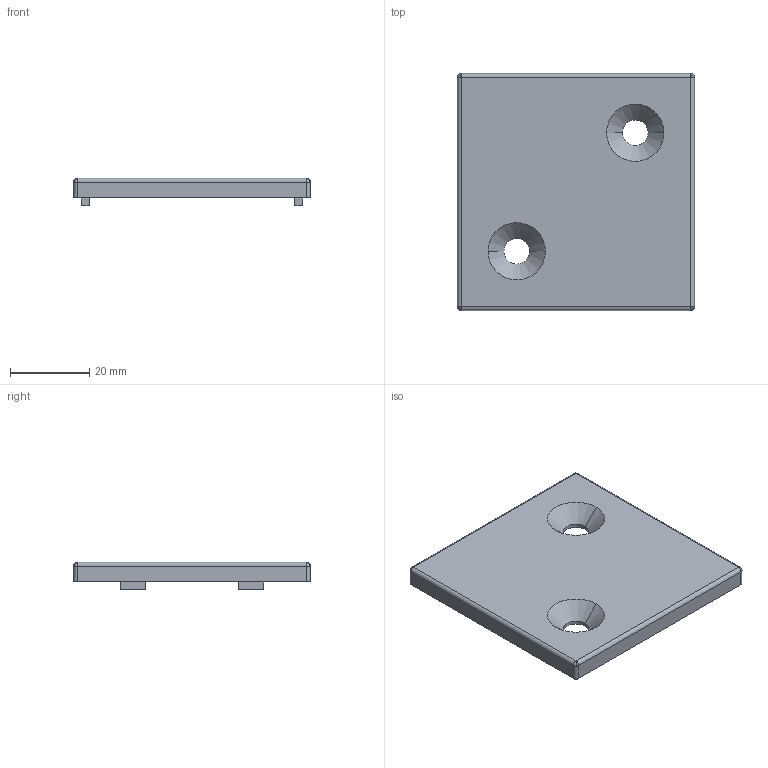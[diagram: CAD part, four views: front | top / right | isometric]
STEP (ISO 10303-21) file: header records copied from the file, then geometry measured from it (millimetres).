
FILE_DESCRIPTION (( 'STEP AP203' ), '1' );
FILE_NAME ('DEC6060A.STEP', '2022-06-23T05:41:52', ( '' ), ( '' ), 'SwSTEP 2.0', 'SolidWorks 2017', '' );
FILE_SCHEMA (( 'CONFIG_CONTROL_DESIGN' ));
Length unit declared in the file: millimetre
Products named in the file (1): DEC6060A
Bounding box: 60 x 60 x 7 mm (x, y, z)
Volume: 8703.1 mm3; surface area: 9177 mm2
Topology: 1 solids, 1 shells, 57 faces, 136 edges, 76 vertices
Faces by surface type: plane 25, cylinder 16, bspline 8, cone 8
Entity records: 1739 total; most frequent: CARTESIAN_POINT 382, DIRECTION 276, ORIENTED_EDGE 256, EDGE_CURVE 128, AXIS2_PLACEMENT_3D 98, VECTOR 80, LINE 80, VERTEX_POINT 76
